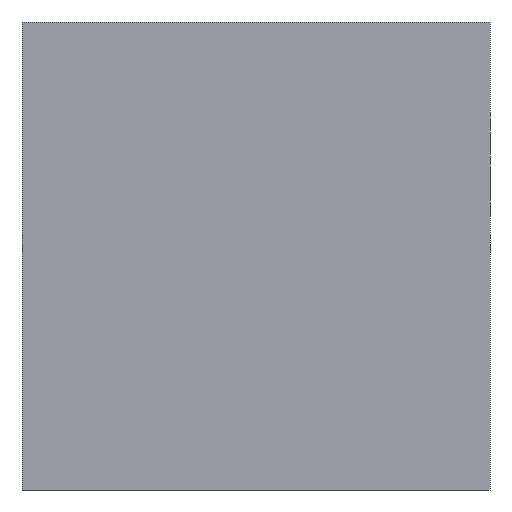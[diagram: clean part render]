
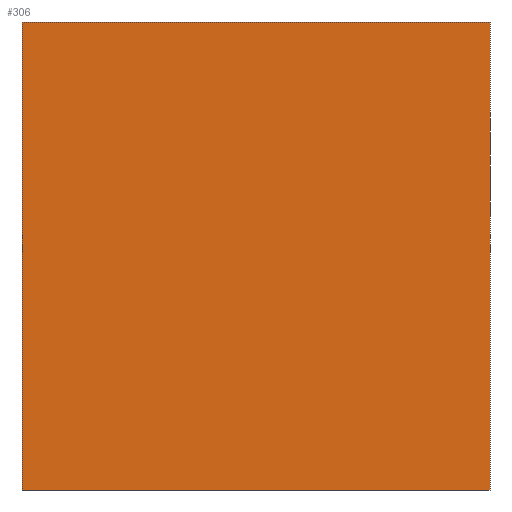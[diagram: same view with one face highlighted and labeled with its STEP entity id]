
A CAD part, front view. The second image highlights one B-rep face of the part: STEP entity #306.
In plain terms, the highlighted planar face has unit normal (0, -1, 0).
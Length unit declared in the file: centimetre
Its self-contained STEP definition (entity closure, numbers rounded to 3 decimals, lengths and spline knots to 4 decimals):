
#12 = VECTOR ( 'NONE', #1183, 100. ) ;
#26 = CARTESIAN_POINT ( 'NONE',  ( 1000., 0., 1000. ) ) ;
#42 = CARTESIAN_POINT ( 'NONE',  ( 0., 0., 0. ) ) ;
#133 = DIRECTION ( 'NONE',  ( 1., 0., 0. ) ) ;
#197 = ORIENTED_EDGE ( 'NONE', *, *, #998, .F. ) ;
#217 = DIRECTION ( 'NONE',  ( 0., 0., -1. ) ) ;
#262 = CARTESIAN_POINT ( 'NONE',  ( 0., 0., 1000. ) ) ;
#277 = CARTESIAN_POINT ( 'NONE',  ( 1000., 0., 0. ) ) ;
#306 = ADVANCED_FACE ( 'NONE', ( #419 ), #703, .F. ) ;
#321 = VERTEX_POINT ( 'NONE', #262 ) ;
#340 = CARTESIAN_POINT ( 'NONE',  ( 0., 0., 0. ) ) ;
#375 = VECTOR ( 'NONE', #133, 100. ) ;
#419 = FACE_OUTER_BOUND ( 'NONE', #549, .T. ) ;
#456 = ORIENTED_EDGE ( 'NONE', *, *, #1184, .T. ) ;
#504 = ORIENTED_EDGE ( 'NONE', *, *, #680, .T. ) ;
#549 = EDGE_LOOP ( 'NONE', ( #504, #881, #197, #456 ) ) ;
#558 = CARTESIAN_POINT ( 'NONE',  ( 1000., 0., 1000. ) ) ;
#585 = VERTEX_POINT ( 'NONE', #277 ) ;
#602 = LINE ( 'NONE', #1065, #628 ) ;
#612 = DIRECTION ( 'NONE',  ( 0., 0., 1. ) ) ;
#628 = VECTOR ( 'NONE', #217, 100. ) ;
#651 = VERTEX_POINT ( 'NONE', #42 ) ;
#671 = AXIS2_PLACEMENT_3D ( 'NONE', #1173, #1074, #612 ) ;
#680 = EDGE_CURVE ( 'NONE', #651, #585, #893, .T. ) ;
#695 = DIRECTION ( 'NONE',  ( 0., 0., -1. ) ) ;
#696 = LINE ( 'NONE', #701, #375 ) ;
#701 = CARTESIAN_POINT ( 'NONE',  ( 0., 0., 1000. ) ) ;
#703 = PLANE ( 'NONE',  #671 ) ;
#860 = VERTEX_POINT ( 'NONE', #558 ) ;
#881 = ORIENTED_EDGE ( 'NONE', *, *, #1166, .F. ) ;
#893 = LINE ( 'NONE', #340, #12 ) ;
#965 = LINE ( 'NONE', #26, #1161 ) ;
#998 = EDGE_CURVE ( 'NONE', #321, #860, #696, .T. ) ;
#1065 = CARTESIAN_POINT ( 'NONE',  ( 0., 0., 1000. ) ) ;
#1074 = DIRECTION ( 'NONE',  ( 0., 1., 0. ) ) ;
#1161 = VECTOR ( 'NONE', #695, 100. ) ;
#1166 = EDGE_CURVE ( 'NONE', #860, #585, #965, .T. ) ;
#1173 = CARTESIAN_POINT ( 'NONE',  ( 0., 0., 1000. ) ) ;
#1183 = DIRECTION ( 'NONE',  ( 1., 0., 0. ) ) ;
#1184 = EDGE_CURVE ( 'NONE', #321, #651, #602, .T. ) ;
